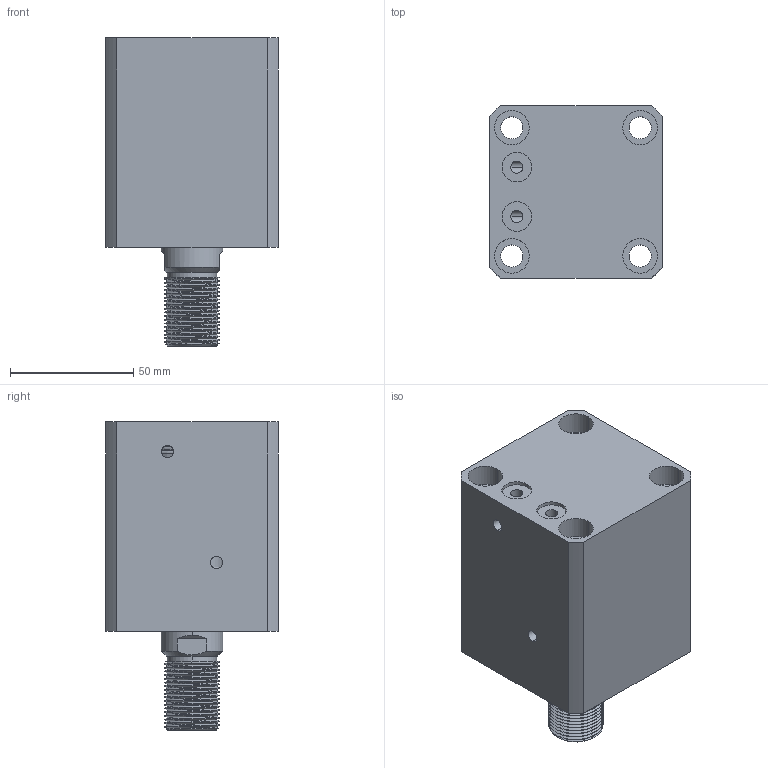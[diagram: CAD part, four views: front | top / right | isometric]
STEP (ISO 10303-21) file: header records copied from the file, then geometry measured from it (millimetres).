
FILE_DESCRIPTION (( 'STEP AP214' ), '1' );
FILE_NAME ('chtb-sdmb40x30w_asm.STEP', '2018-06-07T01:16:12', ( 'Windows' ), ( 'Microsoft' ), 'SwSTEP 2.0', 'SolidWorks 2015', '' );
FILE_SCHEMA (( 'AUTOMOTIVE_DESIGN' ));
Length unit declared in the file: millimetre
Products named in the file (4): CHTB-SDMB40X30NBT; CHTB-SD40X30WHSG; CHTB-SD40QG; chtb-sdmb40x30w_asm
Assembly tree (3 placements, depth 2):
  chtb-sdmb40x30w_asm
    CHTB-SD40QG
    CHTB-SD40X30WHSG
    CHTB-SDMB40X30NBT
Bounding box: 70 x 70 x 125 mm (x, y, z)
Volume: 372004.9 mm3; surface area: 79418.5 mm2
Topology: 3 solids, 4 shells, 201 faces, 539 edges, 359 vertices
Faces by surface type: cylinder 122, plane 38, bspline 16, torus 14, cone 11
Entity records: 13455 total; most frequent: CARTESIAN_POINT 8586, ORIENTED_EDGE 1066, DIRECTION 904, EDGE_CURVE 533, AXIS2_PLACEMENT_3D 374, VERTEX_POINT 359, EDGE_LOOP 238, FACE_OUTER_BOUND 201
